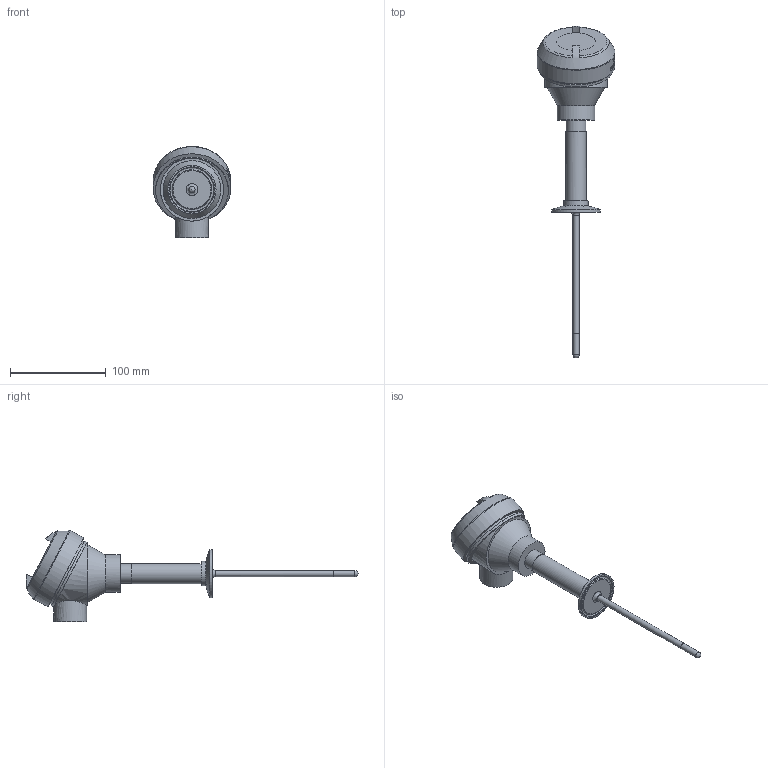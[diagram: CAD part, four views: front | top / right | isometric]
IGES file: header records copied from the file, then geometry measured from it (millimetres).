
Global section: file name: Sanitary-1-5in-Triclamp-IGS; native system: Autodesk Inventor 2014; preprocessor: unknown; author: Charles; date: 20151111.131430; units: inch
Bounding box: 81.35 x 347.54 x 95.42 mm (x, y, z)
Volume: 308744.1 mm3; surface area: 51955 mm2
Topology: 1 solids, 2 shells, 300 faces, 814 edges, 551 vertices
Faces by surface type: bspline 300
